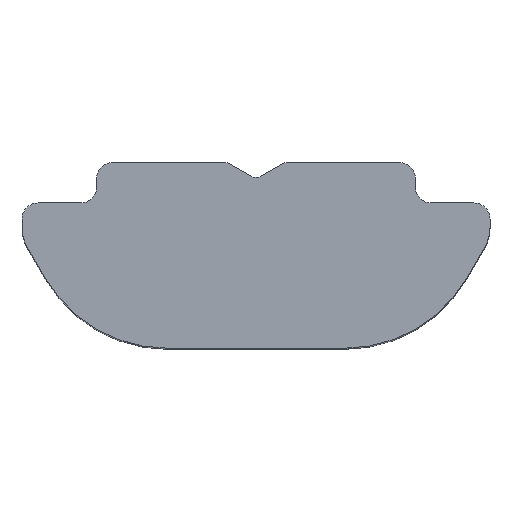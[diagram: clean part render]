
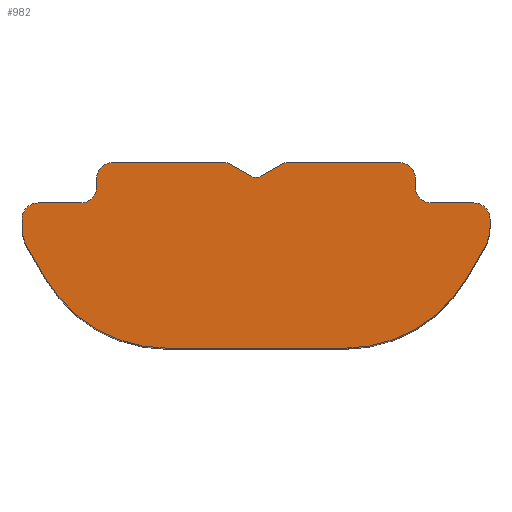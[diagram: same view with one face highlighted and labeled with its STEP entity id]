
A CAD part, top view. The second image highlights one B-rep face of the part: STEP entity #982.
In plain terms, the highlighted planar face has unit normal (0, 0, 1).
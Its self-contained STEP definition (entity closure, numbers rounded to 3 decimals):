
#31=PLANE('',#1077);
#40=CIRCLE('',#1018,3.5);
#41=CIRCLE('',#1020,0.2);
#44=CIRCLE('',#1030,0.2);
#47=CIRCLE('',#1037,0.4);
#49=CIRCLE('',#1043,0.2);
#51=CIRCLE('',#1047,0.4);
#53=CIRCLE('',#1051,0.4);
#55=CIRCLE('',#1055,0.4);
#57=CIRCLE('',#1059,1.);
#58=CIRCLE('',#1062,3.5);
#61=CIRCLE('',#1067,1.);
#63=CIRCLE('',#1071,0.4);
#65=CIRCLE('',#1075,0.4);
#114=FACE_OUTER_BOUND('',#164,.T.);
#164=EDGE_LOOP('',(#853,#854,#855,#856,#857,#858,#859,#860,#861,#862,#863,
#864,#865,#866,#867,#868,#869,#870,#871,#872,#873,#874,#875,#876,#877,#878));
#227=LINE('',#2435,#296);
#236=LINE('',#2458,#305);
#243=LINE('',#2488,#312);
#249=LINE('',#2507,#318);
#255=LINE('',#2522,#324);
#259=LINE('',#2534,#328);
#263=LINE('',#2546,#332);
#267=LINE('',#2558,#336);
#271=LINE('',#2570,#340);
#274=LINE('',#2579,#343);
#278=LINE('',#2591,#347);
#282=LINE('',#2603,#351);
#285=LINE('',#2612,#354);
#296=VECTOR('',#1127,1000.);
#305=VECTOR('',#1148,1000.);
#312=VECTOR('',#1175,1000.);
#318=VECTOR('',#1195,1000.);
#324=VECTOR('',#1213,1000.);
#328=VECTOR('',#1225,1000.);
#332=VECTOR('',#1237,1000.);
#336=VECTOR('',#1249,1000.);
#340=VECTOR('',#1261,1000.);
#343=VECTOR('',#1272,1000.);
#347=VECTOR('',#1284,1000.);
#351=VECTOR('',#1296,1000.);
#354=VECTOR('',#1307,1000.);
#401=VERTEX_POINT('',#2432);
#402=VERTEX_POINT('',#2434);
#405=VERTEX_POINT('',#2442);
#406=VERTEX_POINT('',#2446);
#407=VERTEX_POINT('',#2448);
#410=VERTEX_POINT('',#2456);
#415=VERTEX_POINT('',#2480);
#416=VERTEX_POINT('',#2482);
#417=VERTEX_POINT('',#2486);
#422=VERTEX_POINT('',#2501);
#423=VERTEX_POINT('',#2503);
#426=VERTEX_POINT('',#2518);
#428=VERTEX_POINT('',#2526);
#430=VERTEX_POINT('',#2532);
#432=VERTEX_POINT('',#2538);
#434=VERTEX_POINT('',#2544);
#436=VERTEX_POINT('',#2550);
#438=VERTEX_POINT('',#2556);
#440=VERTEX_POINT('',#2562);
#442=VERTEX_POINT('',#2568);
#444=VERTEX_POINT('',#2577);
#446=VERTEX_POINT('',#2583);
#448=VERTEX_POINT('',#2589);
#450=VERTEX_POINT('',#2595);
#452=VERTEX_POINT('',#2601);
#454=VERTEX_POINT('',#2607);
#517=EDGE_CURVE('',#402,#401,#227,.T.);
#522=EDGE_CURVE('',#401,#405,#40,.T.);
#524=EDGE_CURVE('',#407,#406,#41,.T.);
#529=EDGE_CURVE('',#406,#410,#236,.T.);
#539=EDGE_CURVE('',#415,#416,#44,.T.);
#541=EDGE_CURVE('',#416,#417,#243,.T.);
#548=EDGE_CURVE('',#423,#422,#47,.T.);
#550=EDGE_CURVE('',#422,#415,#249,.T.);
#557=EDGE_CURVE('',#417,#426,#49,.T.);
#558=EDGE_CURVE('',#426,#407,#255,.T.);
#561=EDGE_CURVE('',#410,#428,#51,.T.);
#564=EDGE_CURVE('',#428,#430,#259,.T.);
#567=EDGE_CURVE('',#430,#432,#53,.T.);
#570=EDGE_CURVE('',#432,#434,#263,.T.);
#573=EDGE_CURVE('',#434,#436,#55,.T.);
#576=EDGE_CURVE('',#436,#438,#267,.T.);
#579=EDGE_CURVE('',#438,#440,#57,.T.);
#582=EDGE_CURVE('',#440,#442,#271,.T.);
#583=EDGE_CURVE('',#442,#402,#58,.T.);
#587=EDGE_CURVE('',#405,#444,#274,.T.);
#590=EDGE_CURVE('',#444,#446,#61,.T.);
#593=EDGE_CURVE('',#446,#448,#278,.T.);
#596=EDGE_CURVE('',#448,#450,#63,.T.);
#599=EDGE_CURVE('',#450,#452,#282,.T.);
#602=EDGE_CURVE('',#452,#454,#65,.T.);
#604=EDGE_CURVE('',#454,#423,#285,.T.);
#853=ORIENTED_EDGE('',*,*,#548,.T.);
#854=ORIENTED_EDGE('',*,*,#550,.T.);
#855=ORIENTED_EDGE('',*,*,#539,.T.);
#856=ORIENTED_EDGE('',*,*,#541,.T.);
#857=ORIENTED_EDGE('',*,*,#557,.T.);
#858=ORIENTED_EDGE('',*,*,#558,.T.);
#859=ORIENTED_EDGE('',*,*,#524,.T.);
#860=ORIENTED_EDGE('',*,*,#529,.T.);
#861=ORIENTED_EDGE('',*,*,#561,.T.);
#862=ORIENTED_EDGE('',*,*,#564,.T.);
#863=ORIENTED_EDGE('',*,*,#567,.T.);
#864=ORIENTED_EDGE('',*,*,#570,.T.);
#865=ORIENTED_EDGE('',*,*,#573,.T.);
#866=ORIENTED_EDGE('',*,*,#576,.T.);
#867=ORIENTED_EDGE('',*,*,#579,.T.);
#868=ORIENTED_EDGE('',*,*,#582,.T.);
#869=ORIENTED_EDGE('',*,*,#583,.T.);
#870=ORIENTED_EDGE('',*,*,#517,.T.);
#871=ORIENTED_EDGE('',*,*,#522,.T.);
#872=ORIENTED_EDGE('',*,*,#587,.T.);
#873=ORIENTED_EDGE('',*,*,#590,.T.);
#874=ORIENTED_EDGE('',*,*,#593,.T.);
#875=ORIENTED_EDGE('',*,*,#596,.T.);
#876=ORIENTED_EDGE('',*,*,#599,.T.);
#877=ORIENTED_EDGE('',*,*,#602,.T.);
#878=ORIENTED_EDGE('',*,*,#604,.T.);
#982=ADVANCED_FACE('',(#114),#31,.T.);
#1018=AXIS2_PLACEMENT_3D('',#2444,#1135,#1136);
#1020=AXIS2_PLACEMENT_3D('',#2449,#1140,#1141);
#1030=AXIS2_PLACEMENT_3D('',#2484,#1170,#1171);
#1037=AXIS2_PLACEMENT_3D('',#2504,#1190,#1191);
#1043=AXIS2_PLACEMENT_3D('',#2520,#1209,#1210);
#1047=AXIS2_PLACEMENT_3D('',#2528,#1219,#1220);
#1051=AXIS2_PLACEMENT_3D('',#2540,#1231,#1232);
#1055=AXIS2_PLACEMENT_3D('',#2552,#1243,#1244);
#1059=AXIS2_PLACEMENT_3D('',#2564,#1255,#1256);
#1062=AXIS2_PLACEMENT_3D('',#2572,#1264,#1265);
#1067=AXIS2_PLACEMENT_3D('',#2585,#1278,#1279);
#1071=AXIS2_PLACEMENT_3D('',#2597,#1290,#1291);
#1075=AXIS2_PLACEMENT_3D('',#2609,#1302,#1303);
#1077=AXIS2_PLACEMENT_3D('',#2613,#1308,#1309);
#1127=DIRECTION('',(1.,0.,0.));
#1135=DIRECTION('center_axis',(0.,0.,1.));
#1136=DIRECTION('ref_axis',(-1.,0.,0.));
#1140=DIRECTION('center_axis',(0.,0.,1.));
#1141=DIRECTION('ref_axis',(1.,0.,0.));
#1148=DIRECTION('',(-1.,0.,0.));
#1170=DIRECTION('center_axis',(0.,0.,1.));
#1171=DIRECTION('ref_axis',(-1.,0.,0.));
#1175=DIRECTION('',(-0.866,-0.5,0.));
#1190=DIRECTION('center_axis',(0.,0.,1.));
#1191=DIRECTION('ref_axis',(1.,0.,0.));
#1195=DIRECTION('',(-1.,0.,0.));
#1209=DIRECTION('center_axis',(0.,0.,-1.));
#1210=DIRECTION('ref_axis',(1.,0.,0.));
#1213=DIRECTION('',(-0.866,0.5,0.));
#1219=DIRECTION('center_axis',(0.,0.,1.));
#1220=DIRECTION('ref_axis',(1.,0.,0.));
#1225=DIRECTION('',(0.,-1.,0.));
#1231=DIRECTION('center_axis',(0.,0.,-1.));
#1232=DIRECTION('ref_axis',(-1.,0.,0.));
#1237=DIRECTION('',(-1.,0.,0.));
#1243=DIRECTION('center_axis',(0.,0.,1.));
#1244=DIRECTION('ref_axis',(1.,0.,0.));
#1249=DIRECTION('',(0.,-1.,0.));
#1255=DIRECTION('center_axis',(0.,0.,1.));
#1256=DIRECTION('ref_axis',(1.,0.,0.));
#1261=DIRECTION('',(0.5,-0.866,0.));
#1264=DIRECTION('center_axis',(0.,0.,1.));
#1265=DIRECTION('ref_axis',(-1.,0.,0.));
#1272=DIRECTION('',(0.5,0.866,0.));
#1278=DIRECTION('center_axis',(0.,0.,1.));
#1279=DIRECTION('ref_axis',(1.,0.,0.));
#1284=DIRECTION('',(0.,1.,0.));
#1290=DIRECTION('center_axis',(0.,0.,1.));
#1291=DIRECTION('ref_axis',(1.,0.,0.));
#1296=DIRECTION('',(-1.,0.,0.));
#1302=DIRECTION('center_axis',(0.,0.,-1.));
#1303=DIRECTION('ref_axis',(-1.,0.,0.));
#1307=DIRECTION('',(0.,1.,0.));
#1308=DIRECTION('center_axis',(0.,0.,1.));
#1309=DIRECTION('ref_axis',(1.,0.,0.));
#2432=CARTESIAN_POINT('',(2.202,0.,8.));
#2434=CARTESIAN_POINT('',(-2.202,0.,8.));
#2435=CARTESIAN_POINT('',(-2.202,0.,8.));
#2442=CARTESIAN_POINT('',(5.233,1.75,8.));
#2444=CARTESIAN_POINT('Origin',(2.202,3.5,8.));
#2446=CARTESIAN_POINT('',(-0.746,4.6,8.));
#2448=CARTESIAN_POINT('',(-0.646,4.573,8.));
#2449=CARTESIAN_POINT('Origin',(-0.746,4.4,8.));
#2456=CARTESIAN_POINT('',(-3.55,4.6,8.));
#2458=CARTESIAN_POINT('',(-0.746,4.6,8.));
#2480=CARTESIAN_POINT('',(0.746,4.6,8.));
#2482=CARTESIAN_POINT('',(0.646,4.573,8.));
#2484=CARTESIAN_POINT('Origin',(0.746,4.4,8.));
#2486=CARTESIAN_POINT('',(0.1,4.258,8.));
#2488=CARTESIAN_POINT('',(0.1,4.258,8.));
#2501=CARTESIAN_POINT('',(3.55,4.6,8.));
#2503=CARTESIAN_POINT('',(3.95,4.2,8.));
#2504=CARTESIAN_POINT('Origin',(3.55,4.2,8.));
#2507=CARTESIAN_POINT('',(3.55,4.6,8.));
#2518=CARTESIAN_POINT('',(-0.1,4.258,8.));
#2520=CARTESIAN_POINT('Origin',(0.,4.431,8.));
#2522=CARTESIAN_POINT('',(-0.646,4.573,8.));
#2526=CARTESIAN_POINT('',(-3.95,4.2,8.));
#2528=CARTESIAN_POINT('Origin',(-3.55,4.2,8.));
#2532=CARTESIAN_POINT('',(-3.95,4.,8.));
#2534=CARTESIAN_POINT('',(-3.95,4.2,8.));
#2538=CARTESIAN_POINT('',(-4.35,3.6,8.));
#2540=CARTESIAN_POINT('Origin',(-4.35,4.,8.));
#2544=CARTESIAN_POINT('',(-5.4,3.6,8.));
#2546=CARTESIAN_POINT('',(-4.35,3.6,8.));
#2550=CARTESIAN_POINT('',(-5.8,3.2,8.));
#2552=CARTESIAN_POINT('Origin',(-5.4,3.2,8.));
#2556=CARTESIAN_POINT('',(-5.8,3.,8.));
#2558=CARTESIAN_POINT('',(-5.8,3.2,8.));
#2562=CARTESIAN_POINT('',(-5.666,2.5,8.));
#2564=CARTESIAN_POINT('Origin',(-4.8,3.,8.));
#2568=CARTESIAN_POINT('',(-5.233,1.75,8.));
#2570=CARTESIAN_POINT('',(-5.666,2.5,8.));
#2572=CARTESIAN_POINT('Origin',(-2.202,3.5,8.));
#2577=CARTESIAN_POINT('',(5.666,2.5,8.));
#2579=CARTESIAN_POINT('',(5.233,1.75,8.));
#2583=CARTESIAN_POINT('',(5.8,3.,8.));
#2585=CARTESIAN_POINT('Origin',(4.8,3.,8.));
#2589=CARTESIAN_POINT('',(5.8,3.2,8.));
#2591=CARTESIAN_POINT('',(5.8,3.,8.));
#2595=CARTESIAN_POINT('',(5.4,3.6,8.));
#2597=CARTESIAN_POINT('Origin',(5.4,3.2,8.));
#2601=CARTESIAN_POINT('',(4.35,3.6,8.));
#2603=CARTESIAN_POINT('',(5.4,3.6,8.));
#2607=CARTESIAN_POINT('',(3.95,4.,8.));
#2609=CARTESIAN_POINT('Origin',(4.35,4.,8.));
#2612=CARTESIAN_POINT('',(3.95,4.,8.));
#2613=CARTESIAN_POINT('Origin',(3.55,4.2,8.));
